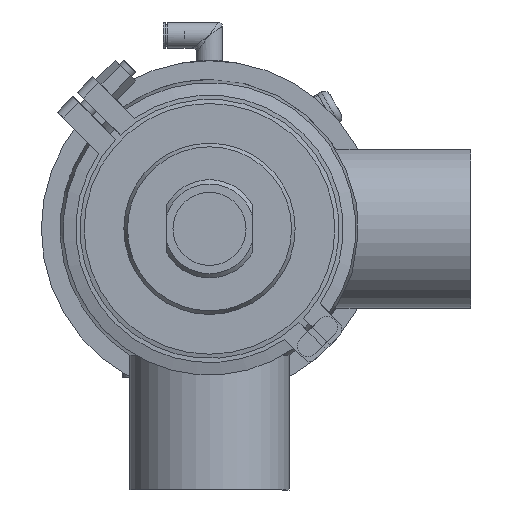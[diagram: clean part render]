
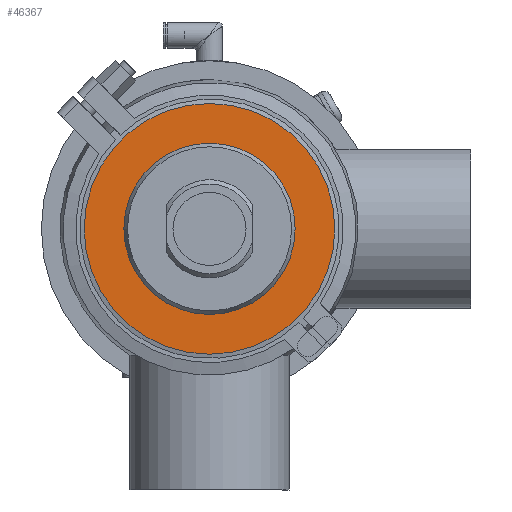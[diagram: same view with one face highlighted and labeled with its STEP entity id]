
A CAD part, front view. The second image highlights one B-rep face of the part: STEP entity #46367.
In plain terms, the highlighted planar face has unit normal (0, -1, 0).
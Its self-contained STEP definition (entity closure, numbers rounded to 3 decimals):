
#2860 = FACE_BOUND ( 'NONE', #36355, .T. ) ;
#11421 = PLANE ( 'NONE',  #25309 ) ;
#14226 = EDGE_CURVE ( 'NONE', #18461, #18461, #54421, .T. ) ;
#14779 = DIRECTION ( 'NONE',  ( 0., 1., 0. ) ) ;
#18427 = EDGE_LOOP ( 'NONE', ( #59095 ) ) ;
#18461 = VERTEX_POINT ( 'NONE', #33023 ) ;
#21082 = CARTESIAN_POINT ( 'NONE',  ( 0., -13., 0. ) ) ;
#21519 = FACE_OUTER_BOUND ( 'NONE', #18427, .T. ) ;
#24039 = ORIENTED_EDGE ( 'NONE', *, *, #14226, .T. ) ;
#25309 = AXIS2_PLACEMENT_3D ( 'NONE', #25979, #60306, #59682 ) ;
#25979 = CARTESIAN_POINT ( 'NONE',  ( -60., -13., 0. ) ) ;
#28630 = AXIS2_PLACEMENT_3D ( 'NONE', #57686, #14779, #43206 ) ;
#29241 = CARTESIAN_POINT ( 'NONE',  ( 0., -13., 60. ) ) ;
#29311 = AXIS2_PLACEMENT_3D ( 'NONE', #21082, #40301, #54777 ) ;
#33023 = CARTESIAN_POINT ( 'NONE',  ( 0., -13., 41. ) ) ;
#36355 = EDGE_LOOP ( 'NONE', ( #24039 ) ) ;
#37751 = VERTEX_POINT ( 'NONE', #29241 ) ;
#40301 = DIRECTION ( 'NONE',  ( 0., 1., 0. ) ) ;
#43206 = DIRECTION ( 'NONE',  ( 0., 0., 1. ) ) ;
#46367 = ADVANCED_FACE ( 'NONE', ( #2860, #21519 ), #11421, .T. ) ;
#46731 = CIRCLE ( 'NONE', #28630, 60. ) ;
#54421 = CIRCLE ( 'NONE', #29311, 41. ) ;
#54777 = DIRECTION ( 'NONE',  ( 0., 0., 1. ) ) ;
#56107 = EDGE_CURVE ( 'NONE', #37751, #37751, #46731, .T. ) ;
#57686 = CARTESIAN_POINT ( 'NONE',  ( 0., -13., 0. ) ) ;
#59095 = ORIENTED_EDGE ( 'NONE', *, *, #56107, .F. ) ;
#59682 = DIRECTION ( 'NONE',  ( 0., 0., -1. ) ) ;
#60306 = DIRECTION ( 'NONE',  ( 0., -1., 0. ) ) ;
